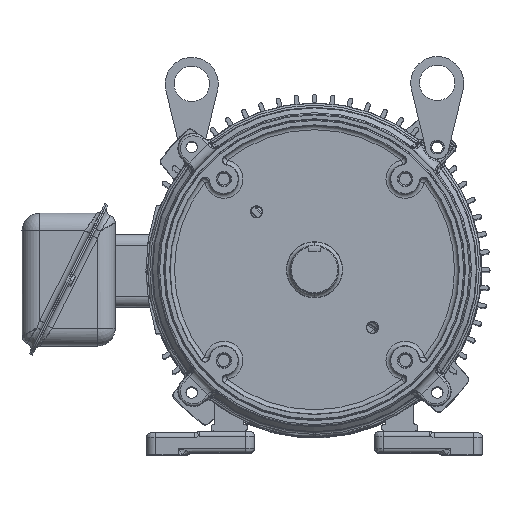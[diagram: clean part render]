
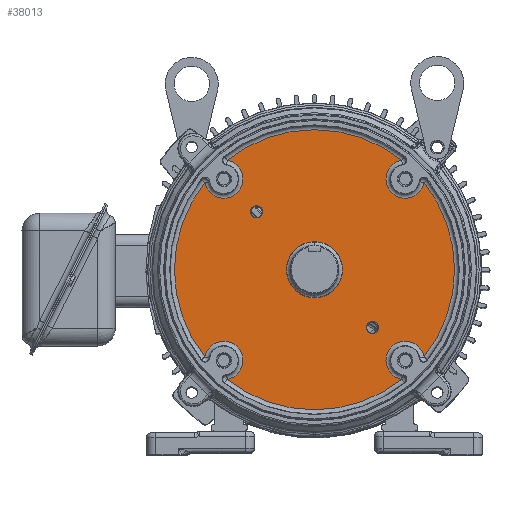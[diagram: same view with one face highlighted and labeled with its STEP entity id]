
A CAD part, top view. The second image highlights one B-rep face of the part: STEP entity #38013.
In plain terms, the highlighted planar face has unit normal (0, 0, 1) as drawn and (0, 0, -1) by its records, which use the part's own axes.
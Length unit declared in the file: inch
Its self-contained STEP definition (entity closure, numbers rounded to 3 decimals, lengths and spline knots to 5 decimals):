
#21164=CARTESIAN_POINT('',(-1.63518,-1.63518,-1.391));
#21165=DIRECTION('',(0.,0.,1.));
#21166=DIRECTION('',(-1.,0.,0.));
#21167=AXIS2_PLACEMENT_3D('',#21164,#21165,#21166);
#21169=CARTESIAN_POINT('',(-1.63518,-1.63518,-1.391));
#21170=DIRECTION('',(0.,0.,1.));
#21171=DIRECTION('',(1.,0.,0.));
#21172=AXIS2_PLACEMENT_3D('',#21169,#21170,#21171);
#21174=CARTESIAN_POINT('',(1.63518,1.63518,-1.391));
#21175=DIRECTION('',(0.,0.,1.));
#21176=DIRECTION('',(-1.,0.,0.));
#21177=AXIS2_PLACEMENT_3D('',#21174,#21175,#21176);
#21179=CARTESIAN_POINT('',(1.63518,1.63518,-1.391));
#21180=DIRECTION('',(0.,0.,1.));
#21181=DIRECTION('',(1.,0.,0.));
#21182=AXIS2_PLACEMENT_3D('',#21179,#21180,#21181);
#21184=CARTESIAN_POINT('',(0.,0.,-1.391));
#21185=DIRECTION('',(0.,0.,1.));
#21186=DIRECTION('',(-1.,0.,0.));
#21187=AXIS2_PLACEMENT_3D('',#21184,#21185,#21186);
#21189=CARTESIAN_POINT('',(0.,0.,-1.391));
#21190=DIRECTION('',(0.,0.,1.));
#21191=DIRECTION('',(1.,0.,0.));
#21192=AXIS2_PLACEMENT_3D('',#21189,#21190,#21191);
#21204=CARTESIAN_POINT('',(0.,0.,-1.391));
#21205=DIRECTION('',(0.,0.,-1.));
#21206=DIRECTION('',(-0.782,-0.623,0.));
#21207=AXIS2_PLACEMENT_3D('',#21204,#21205,#21206);
#25872=CARTESIAN_POINT('',(0.,0.,-1.391));
#25873=DIRECTION('',(0.,0.,-1.));
#25874=DIRECTION('',(-0.623,0.782,0.));
#25875=AXIS2_PLACEMENT_3D('',#25872,#25873,#25874);
#25952=CARTESIAN_POINT('',(-2.56326,2.56326,-1.391));
#25953=DIRECTION('',(0.,0.,1.));
#25954=DIRECTION('',(-0.983,-0.182,0.));
#25955=AXIS2_PLACEMENT_3D('',#25952,#25953,#25954);
#25972=CARTESIAN_POINT('',(2.56326,2.56326,-1.391));
#25973=DIRECTION('',(0.,0.,1.));
#25974=DIRECTION('',(-0.182,0.983,0.));
#25975=AXIS2_PLACEMENT_3D('',#25972,#25973,#25974);
#26022=CARTESIAN_POINT('',(0.,0.,-1.391));
#26023=DIRECTION('',(0.,0.,-1.));
#26024=DIRECTION('',(0.782,0.623,0.));
#26025=AXIS2_PLACEMENT_3D('',#26022,#26023,#26024);
#26072=CARTESIAN_POINT('',(2.56326,-2.56326,-1.391));
#26073=DIRECTION('',(0.,0.,1.));
#26074=DIRECTION('',(0.983,0.182,0.));
#26075=AXIS2_PLACEMENT_3D('',#26072,#26073,#26074);
#26122=CARTESIAN_POINT('',(0.,0.,-1.391));
#26123=DIRECTION('',(0.,0.,-1.));
#26124=DIRECTION('',(0.623,-0.782,0.));
#26125=AXIS2_PLACEMENT_3D('',#26122,#26123,#26124);
#26172=CARTESIAN_POINT('',(-2.56326,-2.56326,-1.391));
#26173=DIRECTION('',(0.,0.,1.));
#26174=DIRECTION('',(0.182,-0.983,0.));
#26175=AXIS2_PLACEMENT_3D('',#26172,#26173,#26174);
#31278=CARTESIAN_POINT('',(-3.09683,-2.46469,-1.391));
#31279=CARTESIAN_POINT('',(-3.09683,2.46469,-1.391));
#31280=VERTEX_POINT('',#31278);
#31281=VERTEX_POINT('',#31279);
#31286=CARTESIAN_POINT('',(-2.46469,-3.09683,-1.391));
#31287=VERTEX_POINT('',#31286);
#31292=CARTESIAN_POINT('',(2.46469,-3.09683,-1.391));
#31293=VERTEX_POINT('',#31292);
#31298=CARTESIAN_POINT('',(3.09683,-2.46469,-1.391));
#31299=VERTEX_POINT('',#31298);
#31304=CARTESIAN_POINT('',(3.09683,2.46469,-1.391));
#31305=VERTEX_POINT('',#31304);
#31310=CARTESIAN_POINT('',(2.46469,3.09683,-1.391));
#31311=VERTEX_POINT('',#31310);
#31316=CARTESIAN_POINT('',(-2.46469,3.09683,-1.391));
#31317=VERTEX_POINT('',#31316);
#31371=CARTESIAN_POINT('',(-1.80668,-1.63518,-1.391));
#31372=CARTESIAN_POINT('',(-1.46368,-1.63518,-1.391));
#31373=VERTEX_POINT('',#31371);
#31374=VERTEX_POINT('',#31372);
#31379=CARTESIAN_POINT('',(1.46368,1.63518,-1.391));
#31380=CARTESIAN_POINT('',(1.80668,1.63518,-1.391));
#31381=VERTEX_POINT('',#31379);
#31382=VERTEX_POINT('',#31380);
#31415=CARTESIAN_POINT('',(-0.7925,0.,-1.391));
#31416=CARTESIAN_POINT('',(0.7925,0.,-1.391));
#31417=VERTEX_POINT('',#31415);
#31418=VERTEX_POINT('',#31416);
#37973=CARTESIAN_POINT('',(0.,0.,-1.391));
#37974=DIRECTION('',(0.,0.,-1.));
#37975=DIRECTION('',(1.,0.,0.));
#37976=AXIS2_PLACEMENT_3D('',#37973,#37974,#37975);
#37977=PLANE('',#37976);
#37979=ORIENTED_EDGE('',*,*,#37978,.F.);
#37981=ORIENTED_EDGE('',*,*,#37980,.F.);
#37983=ORIENTED_EDGE('',*,*,#37982,.F.);
#37985=ORIENTED_EDGE('',*,*,#37984,.F.);
#37987=ORIENTED_EDGE('',*,*,#37986,.F.);
#37989=ORIENTED_EDGE('',*,*,#37988,.F.);
#37991=ORIENTED_EDGE('',*,*,#37990,.F.);
#37993=ORIENTED_EDGE('',*,*,#37992,.F.);
#37994=EDGE_LOOP('',(#37979,#37981,#37983,#37985,#37987,#37989,#37991,#37993));
#37995=FACE_OUTER_BOUND('',#37994,.F.);
#37997=ORIENTED_EDGE('',*,*,#37996,.F.);
#37999=ORIENTED_EDGE('',*,*,#37998,.F.);
#38000=EDGE_LOOP('',(#37997,#37999));
#38001=FACE_BOUND('',#38000,.F.);
#38002=ORIENTED_EDGE('',*,*,#37963,.F.);
#38004=ORIENTED_EDGE('',*,*,#38003,.F.);
#38005=EDGE_LOOP('',(#38002,#38004));
#38006=FACE_BOUND('',#38005,.F.);
#38008=ORIENTED_EDGE('',*,*,#38007,.F.);
#38010=ORIENTED_EDGE('',*,*,#38009,.F.);
#38011=EDGE_LOOP('',(#38008,#38010));
#38012=FACE_BOUND('',#38011,.F.);
#38013=ADVANCED_FACE('',(#37995,#38001,#38006,#38012),#37977,.T.);
#21168=CIRCLE('',#21167,0.1715);
#21173=CIRCLE('',#21172,0.1715);
#21178=CIRCLE('',#21177,0.1715);
#21183=CIRCLE('',#21182,0.1715);
#21188=CIRCLE('',#21187,0.7925);
#21193=CIRCLE('',#21192,0.7925);
#21208=CIRCLE('',#21207,3.95791);
#25876=CIRCLE('',#25875,3.95791);
#25956=CIRCLE('',#25955,0.54259);
#25976=CIRCLE('',#25975,0.54259);
#26026=CIRCLE('',#26025,3.95791);
#26076=CIRCLE('',#26075,0.54259);
#26126=CIRCLE('',#26125,3.95791);
#26176=CIRCLE('',#26175,0.54259);
#37963=EDGE_CURVE('',#31381,#31382,#21178,.T.);
#37978=EDGE_CURVE('',#31280,#31281,#21208,.T.);
#37980=EDGE_CURVE('',#31287,#31280,#26176,.T.);
#37982=EDGE_CURVE('',#31293,#31287,#26126,.T.);
#37984=EDGE_CURVE('',#31299,#31293,#26076,.T.);
#37986=EDGE_CURVE('',#31305,#31299,#26026,.T.);
#37988=EDGE_CURVE('',#31311,#31305,#25976,.T.);
#37990=EDGE_CURVE('',#31317,#31311,#25876,.T.);
#37992=EDGE_CURVE('',#31281,#31317,#25956,.T.);
#37996=EDGE_CURVE('',#31373,#31374,#21168,.T.);
#37998=EDGE_CURVE('',#31374,#31373,#21173,.T.);
#38003=EDGE_CURVE('',#31382,#31381,#21183,.T.);
#38007=EDGE_CURVE('',#31417,#31418,#21188,.T.);
#38009=EDGE_CURVE('',#31418,#31417,#21193,.T.);
